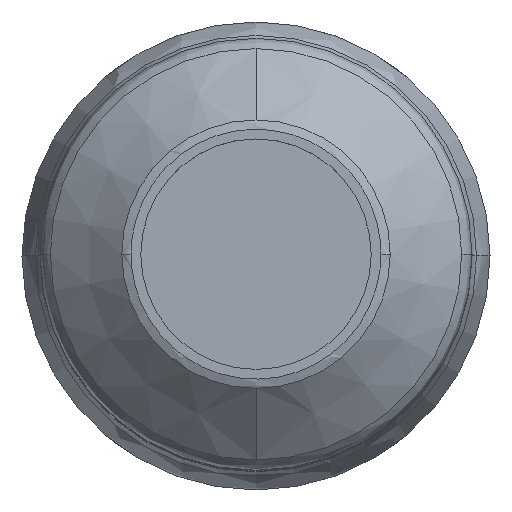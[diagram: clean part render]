
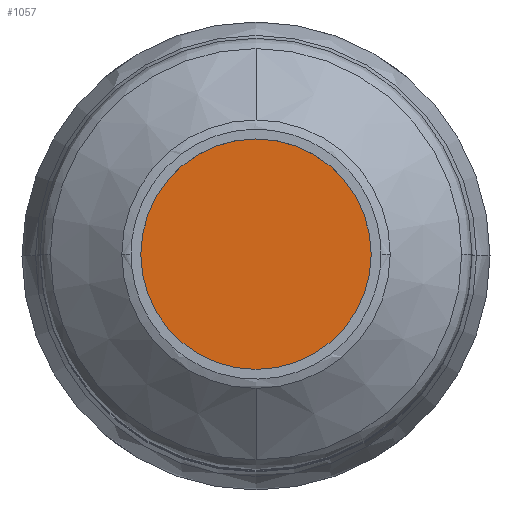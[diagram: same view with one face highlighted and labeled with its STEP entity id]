
A CAD part, top view. The second image highlights one B-rep face of the part: STEP entity #1057.
In plain terms, the highlighted planar face has unit normal (0, 0, 1).
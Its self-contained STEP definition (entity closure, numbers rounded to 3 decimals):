
#18 = FACE_OUTER_BOUND ( 'NONE', #146, .T. ) ;
#64 = DIRECTION ( 'NONE',  ( 0., 0., 1. ) ) ;
#92 = VERTEX_POINT ( 'NONE', #351 ) ;
#101 = ORIENTED_EDGE ( 'NONE', *, *, #270, .T. ) ;
#141 = CARTESIAN_POINT ( 'NONE',  ( 0., 0., 20.1 ) ) ;
#146 = EDGE_LOOP ( 'NONE', ( #216, #101 ) ) ;
#157 = DIRECTION ( 'NONE',  ( 1., 0., 0. ) ) ;
#158 = DIRECTION ( 'NONE',  ( 0., 0., -1. ) ) ;
#164 = PLANE ( 'NONE',  #245 ) ;
#196 = AXIS2_PLACEMENT_3D ( 'NONE', #936, #64, #157 ) ;
#216 = ORIENTED_EDGE ( 'NONE', *, *, #668, .T. ) ;
#236 = DIRECTION ( 'NONE',  ( 0., 0., 1. ) ) ;
#245 = AXIS2_PLACEMENT_3D ( 'NONE', #930, #158, #502 ) ;
#270 = EDGE_CURVE ( 'NONE', #798, #92, #1105, .T. ) ;
#351 = CARTESIAN_POINT ( 'NONE',  ( 1.6, 0., 20.1 ) ) ;
#432 = AXIS2_PLACEMENT_3D ( 'NONE', #141, #236, #852 ) ;
#502 = DIRECTION ( 'NONE',  ( -1., 0., 0. ) ) ;
#551 = CIRCLE ( 'NONE', #432, 1.6 ) ;
#668 = EDGE_CURVE ( 'NONE', #92, #798, #551, .T. ) ;
#719 = CARTESIAN_POINT ( 'NONE',  ( -1.6, 0., 20.1 ) ) ;
#798 = VERTEX_POINT ( 'NONE', #719 ) ;
#852 = DIRECTION ( 'NONE',  ( 1., 0., 0. ) ) ;
#930 = CARTESIAN_POINT ( 'NONE',  ( 0., 0., 20.1 ) ) ;
#936 = CARTESIAN_POINT ( 'NONE',  ( 0., 0., 20.1 ) ) ;
#1057 = ADVANCED_FACE ( 'NONE', ( #18 ), #164, .F. ) ;
#1105 = CIRCLE ( 'NONE', #196, 1.6 ) ;
